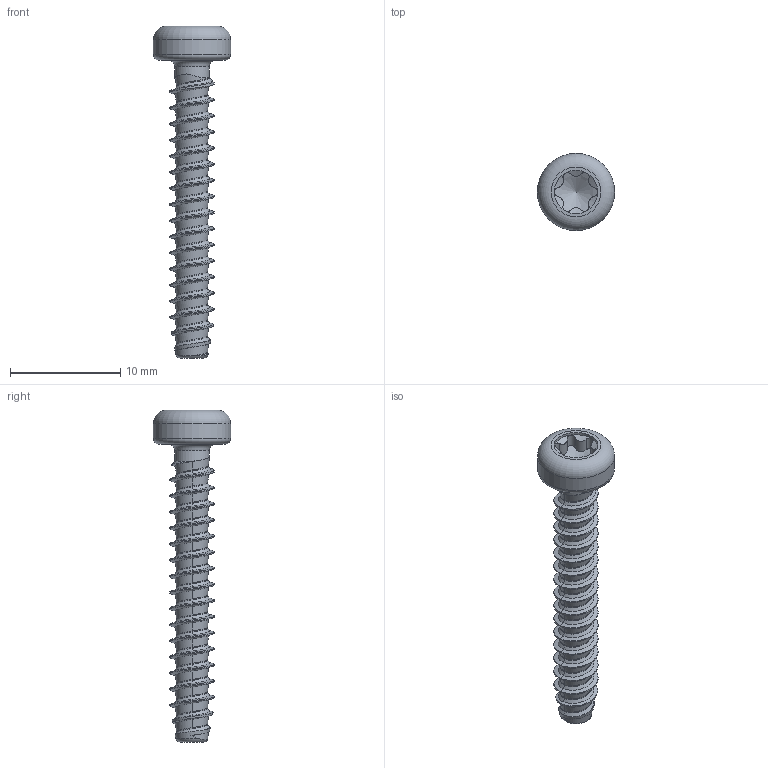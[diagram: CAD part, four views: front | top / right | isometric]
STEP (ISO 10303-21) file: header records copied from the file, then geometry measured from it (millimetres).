
FILE_DESCRIPTION(/* description */ (''),/* implementation_level */ '2;1');
FILE_NAME(/* name */ 'KN6039-STSplus-40x27-T20.step',/* time_stamp */ '2017-10-11T15:59:47+02:00',/* author */ (''),/* organization */ (''),/* preprocessor_version */ 'ST-DEVELOPER v16',/* originating_system */ 'SIEMENS PLM Software NX 10.0',/* authorisation */ '');
FILE_SCHEMA (('AUTOMOTIVE_DESIGN { 1 0 10303 214 3 1 1 1 }'));
Length unit declared in the file: millimetre
Products named in the file (1): KN6039-STSplus-40x27-T20
Bounding box: 7 x 7 x 30.1 mm (x, y, z)
Volume: 299.7 mm3; surface area: 538.7 mm2
Topology: 1 solids, 1 shells, 123 faces, 282 edges, 162 vertices
Faces by surface type: bspline 91, cylinder 16, cone 9, torus 4, plane 3
Full cylindrical faces by diameter (mm): 3.13 x1, 3.95 x1, 7 x1
Entity records: 8569 total; most frequent: CARTESIAN_POINT 6441, ORIENTED_EDGE 540, EDGE_CURVE 270, DIRECTION 200, VERTEX_POINT 159, B_SPLINE_CURVE_WITH_KNOTS 154, EDGE_LOOP 132, ADVANCED_FACE 123
